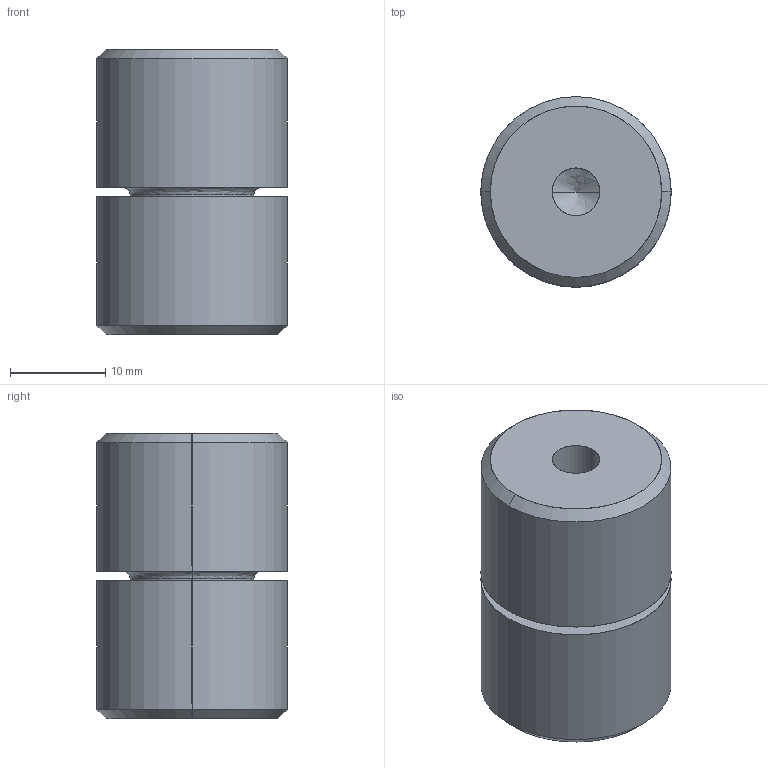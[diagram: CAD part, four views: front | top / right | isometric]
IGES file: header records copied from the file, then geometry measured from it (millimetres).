
Start section: SolidWorks IGES file using analytic representation for surfaces
Global section: file name: D:\Current\W1\TPNF20-8\TPNF20-8.IGS; native system: SolidWorks 2017; preprocessor: SolidWorks 2017; author: Ravi Kalvai; date: 240503.130911; units: millimetre
Bounding box: 20 x 20 x 30 mm (x, y, z)
Surface area: 4018.8 mm2 (no closed solid volume)
Topology: 0 solids, 0 shells, 34 faces, 464 edges, 462 vertices
Faces by surface type: revolution 20, bspline 14
